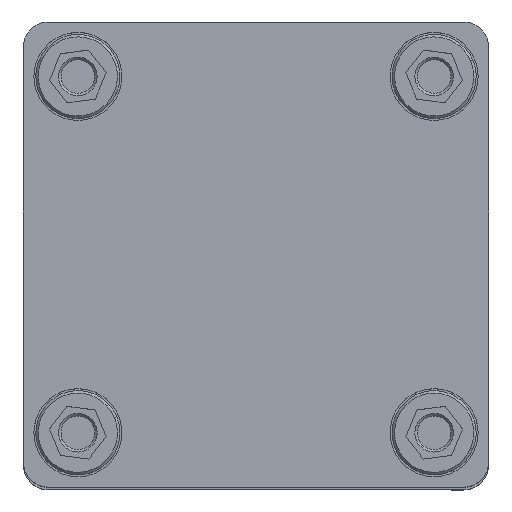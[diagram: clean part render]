
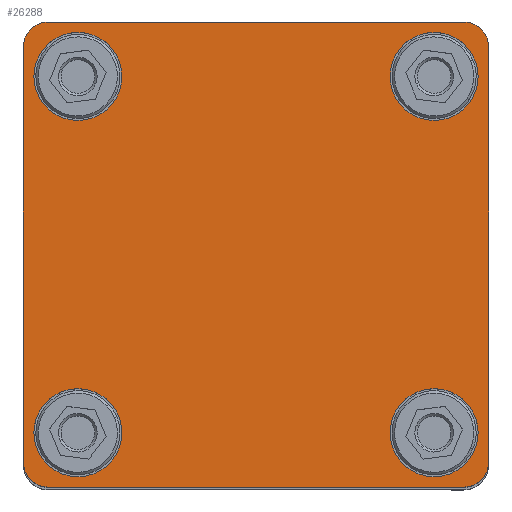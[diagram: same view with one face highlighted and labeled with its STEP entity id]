
A CAD part, top view. The second image highlights one B-rep face of the part: STEP entity #26288.
In plain terms, the highlighted planar face has unit normal (0, 0, 1) as drawn and (1, 0, 0) by its records, which use the part's own axes.
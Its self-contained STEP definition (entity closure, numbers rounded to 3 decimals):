
#109 = VERTEX_POINT ( 'NONE', #33117 ) ;
#419 = DIRECTION ( 'NONE',  ( 1., 0., 0. ) ) ;
#1094 = FACE_BOUND ( 'NONE', #27859, .T. ) ;
#1162 = DIRECTION ( 'NONE',  ( 0., 0., -1. ) ) ;
#1178 = EDGE_CURVE ( 'NONE', #50842, #23385, #27546, .T. ) ;
#1247 = CIRCLE ( 'NONE', #6892, 5. ) ;
#1382 = DIRECTION ( 'NONE',  ( 0., 0., -1. ) ) ;
#1885 = CIRCLE ( 'NONE', #49860, 8.9 ) ;
#2286 = DIRECTION ( 'NONE',  ( 0., 0., -1. ) ) ;
#2865 = EDGE_CURVE ( 'NONE', #7997, #27851, #39767, .T. ) ;
#3123 = DIRECTION ( 'NONE',  ( 0., 0., -1. ) ) ;
#4040 = EDGE_CURVE ( 'NONE', #51876, #32413, #41135, .T. ) ;
#4049 = ORIENTED_EDGE ( 'NONE', *, *, #47637, .T. ) ;
#4753 = CIRCLE ( 'NONE', #29264, 8.9 ) ;
#4795 = CIRCLE ( 'NONE', #10461, 8.9 ) ;
#6108 = PLANE ( 'NONE',  #55092 ) ;
#6419 = ORIENTED_EDGE ( 'NONE', *, *, #17296, .F. ) ;
#6892 = AXIS2_PLACEMENT_3D ( 'NONE', #51702, #47313, #37891 ) ;
#6994 = ORIENTED_EDGE ( 'NONE', *, *, #11441, .F. ) ;
#7013 = ORIENTED_EDGE ( 'NONE', *, *, #37755, .T. ) ;
#7720 = VERTEX_POINT ( 'NONE', #44392 ) ;
#7770 = AXIS2_PLACEMENT_3D ( 'NONE', #40661, #36251, #44792 ) ;
#7997 = VERTEX_POINT ( 'NONE', #52522 ) ;
#8308 = DIRECTION ( 'NONE',  ( 1., 0., 0. ) ) ;
#9411 = LINE ( 'NONE', #48711, #17381 ) ;
#9427 = AXIS2_PLACEMENT_3D ( 'NONE', #43977, #8308, #34283 ) ;
#10037 = AXIS2_PLACEMENT_3D ( 'NONE', #39381, #39668, #3123 ) ;
#10461 = AXIS2_PLACEMENT_3D ( 'NONE', #33841, #15570, #2286 ) ;
#10635 = EDGE_CURVE ( 'NONE', #57833, #28329, #37363, .T. ) ;
#11441 = EDGE_CURVE ( 'NONE', #20880, #19741, #18151, .T. ) ;
#12985 = ORIENTED_EDGE ( 'NONE', *, *, #33280, .F. ) ;
#13470 = AXIS2_PLACEMENT_3D ( 'NONE', #50579, #23497, #1382 ) ;
#15252 = FACE_OUTER_BOUND ( 'NONE', #51600, .T. ) ;
#15396 = CIRCLE ( 'NONE', #55849, 8.9 ) ;
#15570 = DIRECTION ( 'NONE',  ( 1., 0., 0. ) ) ;
#15854 = CARTESIAN_POINT ( 'NONE',  ( 0., -47., -47. ) ) ;
#17296 = EDGE_CURVE ( 'NONE', #43091, #27851, #27412, .T. ) ;
#17381 = VECTOR ( 'NONE', #1162, 1000. ) ;
#17970 = AXIS2_PLACEMENT_3D ( 'NONE', #24989, #42362, #30267 ) ;
#18004 = ORIENTED_EDGE ( 'NONE', *, *, #32343, .F. ) ;
#18151 = CIRCLE ( 'NONE', #13470, 8.9 ) ;
#18286 = DIRECTION ( 'NONE',  ( 0., 1., 0. ) ) ;
#19291 = CARTESIAN_POINT ( 'NONE',  ( 0., -42., -42. ) ) ;
#19299 = EDGE_LOOP ( 'NONE', ( #6994, #27327 ) ) ;
#19668 = FACE_BOUND ( 'NONE', #32059, .T. ) ;
#19741 = VERTEX_POINT ( 'NONE', #53884 ) ;
#20390 = DIRECTION ( 'NONE',  ( 1., 0., 0. ) ) ;
#20776 = CARTESIAN_POINT ( 'NONE',  ( 0., -47., 42. ) ) ;
#20880 = VERTEX_POINT ( 'NONE', #54107 ) ;
#22644 = DIRECTION ( 'NONE',  ( 1., 0., 0. ) ) ;
#23232 = CARTESIAN_POINT ( 'NONE',  ( 0., -36., 27.1 ) ) ;
#23385 = VERTEX_POINT ( 'NONE', #38519 ) ;
#23497 = DIRECTION ( 'NONE',  ( 1., 0., 0. ) ) ;
#23806 = FACE_BOUND ( 'NONE', #19299, .T. ) ;
#24006 = EDGE_LOOP ( 'NONE', ( #47796, #52088 ) ) ;
#24038 = DIRECTION ( 'NONE',  ( 0., 0., -1. ) ) ;
#24627 = DIRECTION ( 'NONE',  ( 1., 0., 0. ) ) ;
#24989 = CARTESIAN_POINT ( 'NONE',  ( 0., 36., 36. ) ) ;
#25512 = EDGE_CURVE ( 'NONE', #7997, #7720, #9411, .T. ) ;
#26036 = CARTESIAN_POINT ( 'NONE',  ( 0., 42., -47. ) ) ;
#26288 = ADVANCED_FACE ( 'NONE', ( #1094, #19668, #23806, #41765, #15252 ), #6108, .T. ) ;
#27327 = ORIENTED_EDGE ( 'NONE', *, *, #42571, .F. ) ;
#27412 = LINE ( 'NONE', #31836, #43981 ) ;
#27546 = LINE ( 'NONE', #30294, #38103 ) ;
#27784 = EDGE_CURVE ( 'NONE', #37267, #50618, #35480, .T. ) ;
#27851 = VERTEX_POINT ( 'NONE', #43799 ) ;
#27859 = EDGE_LOOP ( 'NONE', ( #12985, #54283 ) ) ;
#28230 = DIRECTION ( 'NONE',  ( 1., 0., 0. ) ) ;
#28329 = VERTEX_POINT ( 'NONE', #20776 ) ;
#28466 = CARTESIAN_POINT ( 'NONE',  ( 0., -36., 44.9 ) ) ;
#29264 = AXIS2_PLACEMENT_3D ( 'NONE', #42286, #24627, #24038 ) ;
#29292 = CIRCLE ( 'NONE', #17970, 8.9 ) ;
#29410 = CARTESIAN_POINT ( 'NONE',  ( 0., -36., -36. ) ) ;
#30267 = DIRECTION ( 'NONE',  ( 0., 0., -1. ) ) ;
#30294 = CARTESIAN_POINT ( 'NONE',  ( 0., -47., -47. ) ) ;
#31836 = CARTESIAN_POINT ( 'NONE',  ( 0., -47., 47. ) ) ;
#31949 = EDGE_CURVE ( 'NONE', #56793, #109, #1885, .T. ) ;
#32059 = EDGE_LOOP ( 'NONE', ( #33988, #18004 ) ) ;
#32064 = CARTESIAN_POINT ( 'NONE',  ( 0., 36., -36. ) ) ;
#32343 = EDGE_CURVE ( 'NONE', #32413, #51876, #4753, .T. ) ;
#32413 = VERTEX_POINT ( 'NONE', #28466 ) ;
#32659 = AXIS2_PLACEMENT_3D ( 'NONE', #38930, #20390, #38371 ) ;
#32944 = DIRECTION ( 'NONE',  ( 0., 0., -1. ) ) ;
#33117 = CARTESIAN_POINT ( 'NONE',  ( 0., -36., -44.9 ) ) ;
#33280 = EDGE_CURVE ( 'NONE', #109, #56793, #4795, .T. ) ;
#33629 = CARTESIAN_POINT ( 'NONE',  ( 0., -47., -42. ) ) ;
#33841 = CARTESIAN_POINT ( 'NONE',  ( 0., -36., -36. ) ) ;
#33988 = ORIENTED_EDGE ( 'NONE', *, *, #4040, .F. ) ;
#34283 = DIRECTION ( 'NONE',  ( 0., 0., -1. ) ) ;
#34587 = CIRCLE ( 'NONE', #49607, 5. ) ;
#34672 = CARTESIAN_POINT ( 'NONE',  ( 0., -42., 47. ) ) ;
#35480 = CIRCLE ( 'NONE', #10037, 8.9 ) ;
#36251 = DIRECTION ( 'NONE',  ( 1., 0., 0. ) ) ;
#36388 = DIRECTION ( 'NONE',  ( 0., 0., -1. ) ) ;
#36937 = ORIENTED_EDGE ( 'NONE', *, *, #57032, .T. ) ;
#37267 = VERTEX_POINT ( 'NONE', #47930 ) ;
#37363 = LINE ( 'NONE', #15854, #50088 ) ;
#37755 = EDGE_CURVE ( 'NONE', #50842, #7720, #1247, .T. ) ;
#37891 = DIRECTION ( 'NONE',  ( 0., 0., -1. ) ) ;
#37957 = DIRECTION ( 'NONE',  ( 0., 0., -1. ) ) ;
#38103 = VECTOR ( 'NONE', #48252, 1000. ) ;
#38371 = DIRECTION ( 'NONE',  ( 0., 0., -1. ) ) ;
#38519 = CARTESIAN_POINT ( 'NONE',  ( 0., -42., -47. ) ) ;
#38930 = CARTESIAN_POINT ( 'NONE',  ( 0., -36., 36. ) ) ;
#39381 = CARTESIAN_POINT ( 'NONE',  ( 0., 36., 36. ) ) ;
#39668 = DIRECTION ( 'NONE',  ( 1., 0., 0. ) ) ;
#39767 = CIRCLE ( 'NONE', #7770, 5. ) ;
#40661 = CARTESIAN_POINT ( 'NONE',  ( 0., 42., 42. ) ) ;
#41135 = CIRCLE ( 'NONE', #32659, 8.9 ) ;
#41307 = ORIENTED_EDGE ( 'NONE', *, *, #1178, .F. ) ;
#41469 = DIRECTION ( 'NONE',  ( 0., 0., -1. ) ) ;
#41765 = FACE_BOUND ( 'NONE', #24006, .T. ) ;
#42286 = CARTESIAN_POINT ( 'NONE',  ( 0., -36., 36. ) ) ;
#42362 = DIRECTION ( 'NONE',  ( 1., 0., 0. ) ) ;
#42571 = EDGE_CURVE ( 'NONE', #19741, #20880, #15396, .T. ) ;
#42947 = DIRECTION ( 'NONE',  ( 1., 0., 0. ) ) ;
#43091 = VERTEX_POINT ( 'NONE', #34672 ) ;
#43799 = CARTESIAN_POINT ( 'NONE',  ( 0., 42., 47. ) ) ;
#43977 = CARTESIAN_POINT ( 'NONE',  ( 0., -42., 42. ) ) ;
#43981 = VECTOR ( 'NONE', #18286, 1000. ) ;
#44392 = CARTESIAN_POINT ( 'NONE',  ( 0., 47., -42. ) ) ;
#44792 = DIRECTION ( 'NONE',  ( 0., 0., -1. ) ) ;
#45992 = ORIENTED_EDGE ( 'NONE', *, *, #10635, .F. ) ;
#46492 = ORIENTED_EDGE ( 'NONE', *, *, #2865, .T. ) ;
#47313 = DIRECTION ( 'NONE',  ( 1., 0., 0. ) ) ;
#47637 = EDGE_CURVE ( 'NONE', #57833, #23385, #34587, .T. ) ;
#47796 = ORIENTED_EDGE ( 'NONE', *, *, #27784, .F. ) ;
#47930 = CARTESIAN_POINT ( 'NONE',  ( 0., 36., 27.1 ) ) ;
#48140 = CIRCLE ( 'NONE', #9427, 5. ) ;
#48252 = DIRECTION ( 'NONE',  ( 0., -1., 0. ) ) ;
#48711 = CARTESIAN_POINT ( 'NONE',  ( 0., 47., -47. ) ) ;
#49177 = ORIENTED_EDGE ( 'NONE', *, *, #25512, .F. ) ;
#49607 = AXIS2_PLACEMENT_3D ( 'NONE', #19291, #419, #36388 ) ;
#49860 = AXIS2_PLACEMENT_3D ( 'NONE', #29410, #42947, #37957 ) ;
#50088 = VECTOR ( 'NONE', #50888, 1000. ) ;
#50579 = CARTESIAN_POINT ( 'NONE',  ( 0., 36., -36. ) ) ;
#50583 = CARTESIAN_POINT ( 'NONE',  ( 0., 0., 0. ) ) ;
#50618 = VERTEX_POINT ( 'NONE', #54934 ) ;
#50842 = VERTEX_POINT ( 'NONE', #26036 ) ;
#50888 = DIRECTION ( 'NONE',  ( 0., 0., 1. ) ) ;
#51600 = EDGE_LOOP ( 'NONE', ( #6419, #36937, #45992, #4049, #41307, #7013, #49177, #46492 ) ) ;
#51702 = CARTESIAN_POINT ( 'NONE',  ( 0., 42., -42. ) ) ;
#51876 = VERTEX_POINT ( 'NONE', #23232 ) ;
#52088 = ORIENTED_EDGE ( 'NONE', *, *, #55180, .F. ) ;
#52522 = CARTESIAN_POINT ( 'NONE',  ( 0., 47., 42. ) ) ;
#53884 = CARTESIAN_POINT ( 'NONE',  ( 0., 36., -27.1 ) ) ;
#53973 = CARTESIAN_POINT ( 'NONE',  ( 0., -36., -27.1 ) ) ;
#54107 = CARTESIAN_POINT ( 'NONE',  ( 0., 36., -44.9 ) ) ;
#54283 = ORIENTED_EDGE ( 'NONE', *, *, #31949, .F. ) ;
#54934 = CARTESIAN_POINT ( 'NONE',  ( 0., 36., 44.9 ) ) ;
#55092 = AXIS2_PLACEMENT_3D ( 'NONE', #50583, #28230, #41469 ) ;
#55180 = EDGE_CURVE ( 'NONE', #50618, #37267, #29292, .T. ) ;
#55849 = AXIS2_PLACEMENT_3D ( 'NONE', #32064, #22644, #32944 ) ;
#56793 = VERTEX_POINT ( 'NONE', #53973 ) ;
#57032 = EDGE_CURVE ( 'NONE', #43091, #28329, #48140, .T. ) ;
#57833 = VERTEX_POINT ( 'NONE', #33629 ) ;
